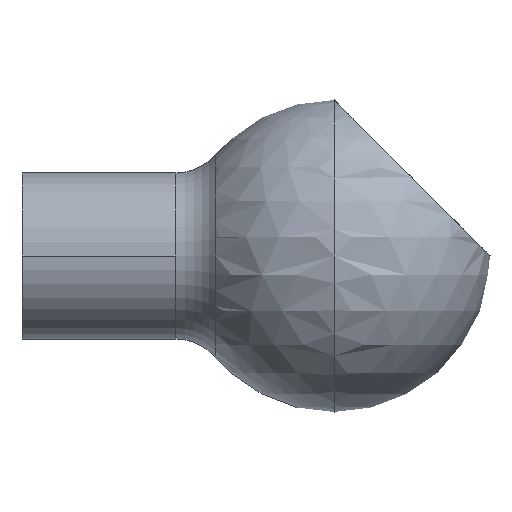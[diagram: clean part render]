
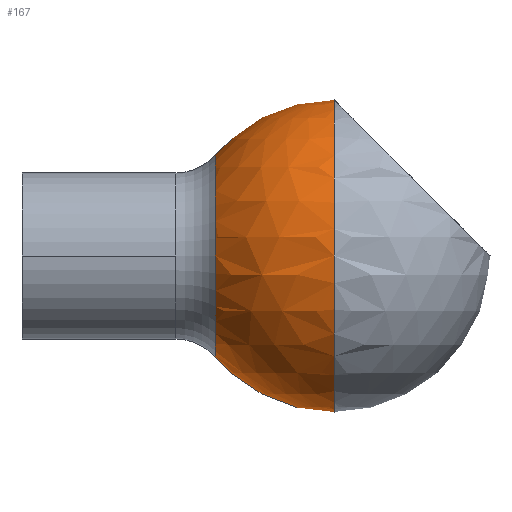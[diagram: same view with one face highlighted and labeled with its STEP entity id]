
A CAD part, left-side view. The second image highlights one B-rep face of the part: STEP entity #167.
In plain terms, the highlighted spherical face has radius 15 mm.
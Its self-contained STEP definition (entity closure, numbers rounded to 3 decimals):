
#167 = ADVANCED_FACE( '', ( #442 ), #443, .T. );
#169 = EDGE_CURVE( '', #225, #255, #445, .T. );
#191 = VERTEX_POINT( '', #468 );
#209 = EDGE_CURVE( '', #365, #225, #487, .T. );
#225 = VERTEX_POINT( '', #504 );
#251 = VERTEX_POINT( '', #532 );
#255 = VERTEX_POINT( '', #536 );
#283 = EDGE_CURVE( '', #191, #365, #569, .T. );
#291 = VERTEX_POINT( '', #577 );
#295 = EDGE_CURVE( '', #333, #291, #581, .T. );
#311 = VERTEX_POINT( '', #602 );
#323 = EDGE_CURVE( '', #291, #191, #616, .T. );
#333 = VERTEX_POINT( '', #626 );
#337 = EDGE_CURVE( '', #251, #333, #630, .T. );
#365 = VERTEX_POINT( '', #663 );
#375 = EDGE_CURVE( '', #311, #251, #673, .T. );
#381 = EDGE_CURVE( '', #255, #311, #679, .T. );
#442 = FACE_OUTER_BOUND( '', #736, .T. );
#443 = SPHERICAL_SURFACE( '', #737, 15. );
#445 = CIRCLE( '', #740, 15. );
#468 = CARTESIAN_POINT( '', ( 0., -18.601, 9.75 ) );
#487 = CIRCLE( '', #810, 12. );
#504 = CARTESIAN_POINT( '', ( 9., -30., 12. ) );
#532 = CARTESIAN_POINT( '', ( 9., -30., -12. ) );
#536 = CARTESIAN_POINT( '', ( 0., -30., 15. ) );
#569 = CIRCLE( '', #915, 9.75 );
#577 = CARTESIAN_POINT( '', ( 0., -18.601, -9.75 ) );
#581 = CIRCLE( '', #931, 9.75 );
#602 = CARTESIAN_POINT( '', ( 0., -30., -15. ) );
#616 = CIRCLE( '', #971, 9.75 );
#626 = CARTESIAN_POINT( '', ( 9., -18.601, -3.75 ) );
#630 = CIRCLE( '', #988, 12. );
#663 = CARTESIAN_POINT( '', ( 9., -18.601, 3.75 ) );
#673 = CIRCLE( '', #1042, 15. );
#679 = CIRCLE( '', #1050, 15. );
#736 = EDGE_LOOP( '', ( #1120, #1121, #1122, #1123, #1124, #1125, #1126, #1127 ) );
#737 = AXIS2_PLACEMENT_3D( '', #1128, #1129, #1130 );
#740 = AXIS2_PLACEMENT_3D( '', #1131, #1132, #1133 );
#810 = AXIS2_PLACEMENT_3D( '', #1185, #1186, #1187 );
#915 = AXIS2_PLACEMENT_3D( '', #1303, #1304, #1305 );
#931 = AXIS2_PLACEMENT_3D( '', #1310, #1311, #1312 );
#971 = AXIS2_PLACEMENT_3D( '', #1382, #1383, #1384 );
#988 = AXIS2_PLACEMENT_3D( '', #1391, #1392, #1393 );
#1042 = AXIS2_PLACEMENT_3D( '', #1451, #1452, #1453 );
#1050 = AXIS2_PLACEMENT_3D( '', #1457, #1458, #1459 );
#1120 = ORIENTED_EDGE( '', *, *, #381, .F. );
#1121 = ORIENTED_EDGE( '', *, *, #169, .F. );
#1122 = ORIENTED_EDGE( '', *, *, #209, .F. );
#1123 = ORIENTED_EDGE( '', *, *, #283, .F. );
#1124 = ORIENTED_EDGE( '', *, *, #323, .F. );
#1125 = ORIENTED_EDGE( '', *, *, #295, .F. );
#1126 = ORIENTED_EDGE( '', *, *, #337, .F. );
#1127 = ORIENTED_EDGE( '', *, *, #375, .F. );
#1128 = CARTESIAN_POINT( '', ( 0., -30., 0. ) );
#1129 = DIRECTION( '', ( 0., 0., 1. ) );
#1130 = DIRECTION( '', ( 1., 0., 0. ) );
#1131 = CARTESIAN_POINT( '', ( 0., -30., 0. ) );
#1132 = DIRECTION( '', ( 0., -1., 0. ) );
#1133 = DIRECTION( '', ( 0., 0., 1. ) );
#1185 = CARTESIAN_POINT( '', ( 9., -30., 0. ) );
#1186 = DIRECTION( '', ( 1., 0., 0. ) );
#1187 = DIRECTION( '', ( 0., 0., -1. ) );
#1303 = CARTESIAN_POINT( '', ( 0., -18.601, 0. ) );
#1304 = DIRECTION( '', ( 0., 1., 0. ) );
#1305 = DIRECTION( '', ( 0., 0., 1. ) );
#1310 = CARTESIAN_POINT( '', ( 0., -18.601, 0. ) );
#1311 = DIRECTION( '', ( 0., 1., 0. ) );
#1312 = DIRECTION( '', ( 0., 0., 1. ) );
#1382 = CARTESIAN_POINT( '', ( 0., -18.601, 0. ) );
#1383 = DIRECTION( '', ( 0., 1., 0. ) );
#1384 = DIRECTION( '', ( 0., 0., 1. ) );
#1391 = CARTESIAN_POINT( '', ( 9., -30., 0. ) );
#1392 = DIRECTION( '', ( 1., 0., 0. ) );
#1393 = DIRECTION( '', ( 0., 0., -1. ) );
#1451 = CARTESIAN_POINT( '', ( 0., -30., 0. ) );
#1452 = DIRECTION( '', ( 0., -1., 0. ) );
#1453 = DIRECTION( '', ( 0., 0., 1. ) );
#1457 = CARTESIAN_POINT( '', ( 0., -30., 0. ) );
#1458 = DIRECTION( '', ( 0., -1., 0. ) );
#1459 = DIRECTION( '', ( 0., 0., 1. ) );
